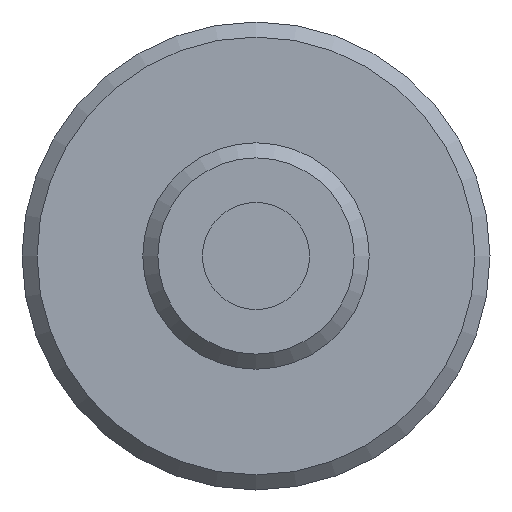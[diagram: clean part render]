
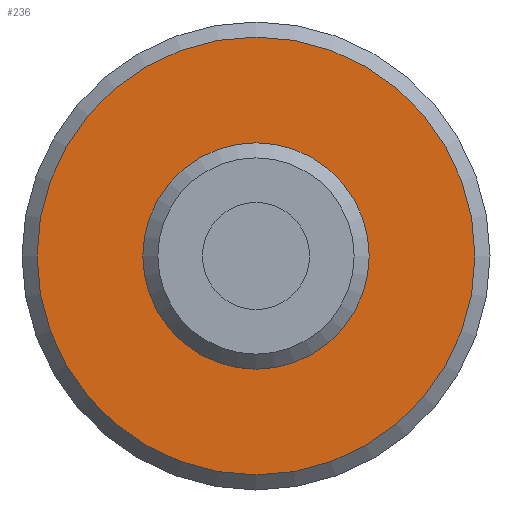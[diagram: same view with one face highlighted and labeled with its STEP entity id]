
A CAD part, front view. The second image highlights one B-rep face of the part: STEP entity #236.
In plain terms, the highlighted planar face has unit normal (0, -1, 0).
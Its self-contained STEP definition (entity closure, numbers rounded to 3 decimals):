
#21=FACE_BOUND('',#71,.T.);
#30=PLANE('',#286);
#48=FACE_OUTER_BOUND('',#70,.T.);
#70=EDGE_LOOP('',(#206));
#71=EDGE_LOOP('',(#207));
#100=CIRCLE('',#265,14.5);
#110=CIRCLE('',#285,7.5);
#118=VERTEX_POINT('',#396);
#127=VERTEX_POINT('',#431);
#138=EDGE_CURVE('',#118,#118,#100,.T.);
#153=EDGE_CURVE('',#127,#127,#110,.T.);
#206=ORIENTED_EDGE('',*,*,#138,.F.);
#207=ORIENTED_EDGE('',*,*,#153,.T.);
#236=ADVANCED_FACE('',(#48,#21),#30,.T.);
#265=AXIS2_PLACEMENT_3D('',#398,#317,#318);
#285=AXIS2_PLACEMENT_3D('',#432,#362,#363);
#286=AXIS2_PLACEMENT_3D('',#434,#365,#366);
#317=DIRECTION('center_axis',(0.,1.,0.));
#318=DIRECTION('ref_axis',(1.,0.,0.));
#362=DIRECTION('center_axis',(0.,1.,0.));
#363=DIRECTION('ref_axis',(1.,0.,0.));
#365=DIRECTION('center_axis',(0.,-1.,0.));
#366=DIRECTION('ref_axis',(0.,0.,-1.));
#396=CARTESIAN_POINT('',(0.,20.,-14.5));
#398=CARTESIAN_POINT('Origin',(0.,20.,0.));
#431=CARTESIAN_POINT('',(0.,20.,-7.5));
#432=CARTESIAN_POINT('Origin',(0.,20.,0.));
#434=CARTESIAN_POINT('Origin',(0.,20.,14.5));
